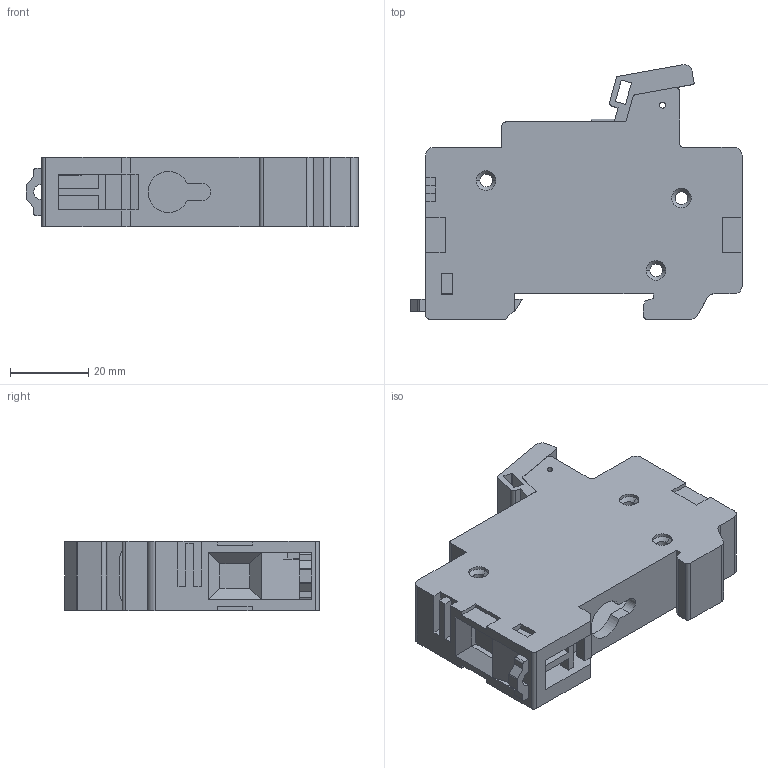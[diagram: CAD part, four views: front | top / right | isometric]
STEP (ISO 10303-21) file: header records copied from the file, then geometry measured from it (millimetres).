
FILE_DESCRIPTION((''),'2;1');
FILE_NAME('ASM0002_ASM','2016-07-07T',('Administrator'),(''),'PRO/ENGINEER BY PARAMETRIC TECHNOLOGY CORPORATION, 2012360','PRO/ENGINEER BY PARAMETRIC TECHNOLOGY CORPORATION, 2012360','');
FILE_SCHEMA(('CONFIG_CONTROL_DESIGN'));
Length unit declared in the file: inch
Products named in the file (1): ASM0002_ASM
Bounding box: 85 x 65.17 x 17.7 mm (x, y, z)
Volume: 60751.9 mm3; surface area: 17815.3 mm2
Topology: 1 solids, 1 shells, 309 faces, 855 edges, 560 vertices
Faces by surface type: plane 215, cylinder 84, cone 6, torus 4
Entity records: 9964 total; most frequent: CARTESIAN_POINT 1811, ORIENTED_EDGE 1710, DIRECTION 1669, EDGE_CURVE 855, VECTOR 627, LINE 627, VERTEX_POINT 560, AXIS2_PLACEMENT_3D 521
